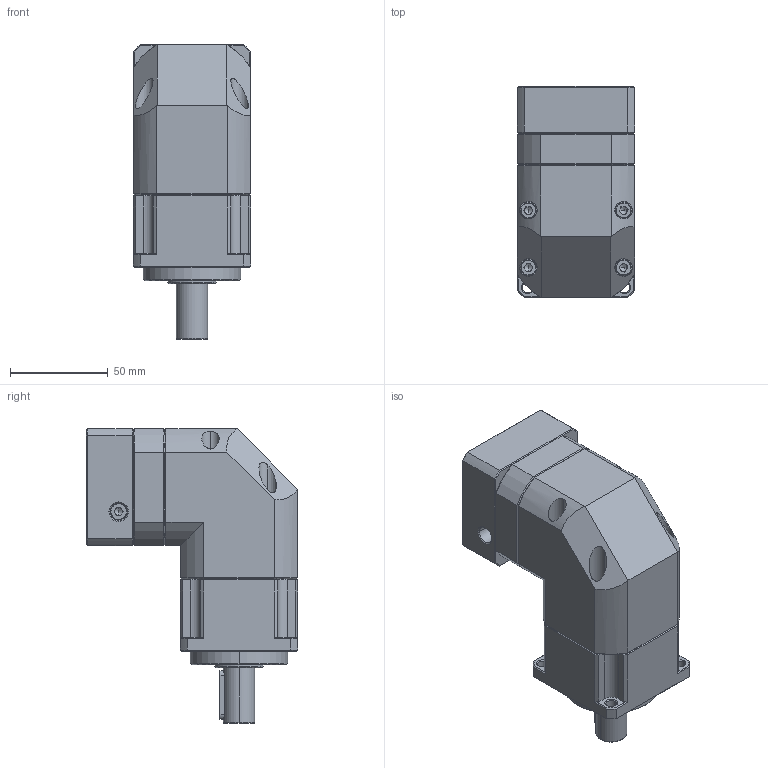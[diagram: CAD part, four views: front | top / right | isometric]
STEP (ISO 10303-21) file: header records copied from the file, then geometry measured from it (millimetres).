
FILE_DESCRIPTION (( 'STEP AP214' ), '1' );
FILE_NAME ('ZPBR060-D16-L1-P1-11-50-70-M4.STEP', '2024-05-03T14:22:40', ( 'Windows 蚚誧' ), ( 'Organization' ), 'SwSTEP 2.0', 'SolidWorks 2016', '' );
FILE_SCHEMA (( 'AUTOMOTIVE_DESIGN' ));
Length unit declared in the file: millimetre
Products named in the file (1): ZPBR060-D16-L1-P1-11-50-70-M4
Bounding box: 60 x 108.2 x 151 mm (x, y, z)
Volume: 493080.2 mm3; surface area: 65034.8 mm2
Topology: 1 solids, 33 shells, 1924 faces, 5104 edges, 3261 vertices
Faces by surface type: plane 1012, bspline 397, cone 260, cylinder 253, torus 2
Entity records: 84673 total; most frequent: CARTESIAN_POINT 33598, ORIENTED_EDGE 10164, DIRECTION 7911, EDGE_CURVE 5082, VECTOR 3359, LINE 3359, VERTEX_POINT 3261, AXIS2_PLACEMENT_3D 2276
